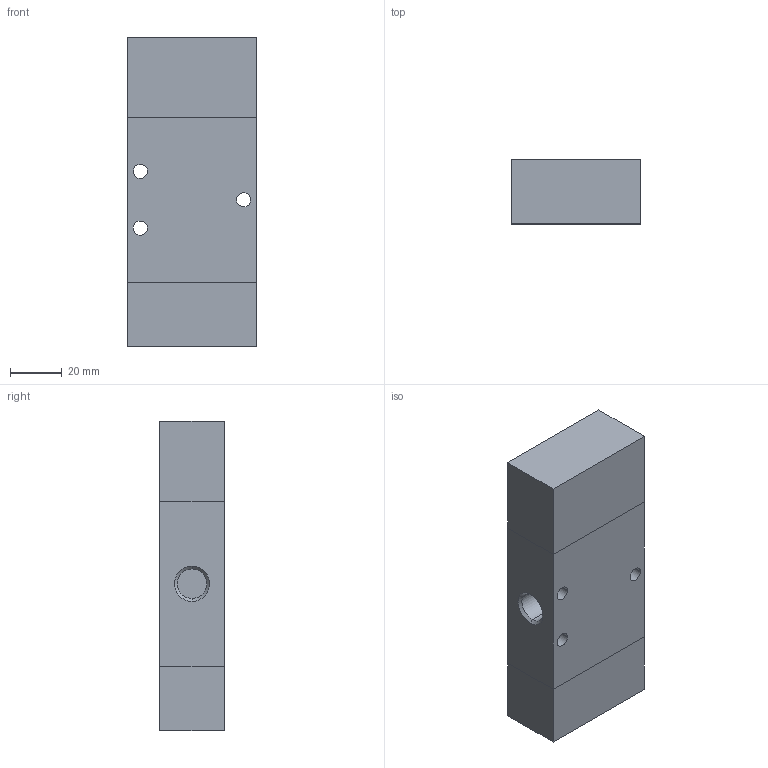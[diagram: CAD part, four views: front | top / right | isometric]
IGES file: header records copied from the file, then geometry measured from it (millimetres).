
Global section: file name: No Iges File Name specified; native system: AutoDesk Inventor R11.0; preprocessor: AutoDesk Inventor Iges Exporter R11.0; author: No Author specified; organization: No Organization specified; date: 20061219.092204; units: millimetre
Bounding box: 50 x 25 x 120 mm (x, y, z)
Volume: 144088.3 mm3; surface area: 23010 mm2
Topology: 1 solids, 1 shells, 42 faces, 94 edges, 60 vertices
Faces by surface type: bspline 20, plane 16, revolution 6
